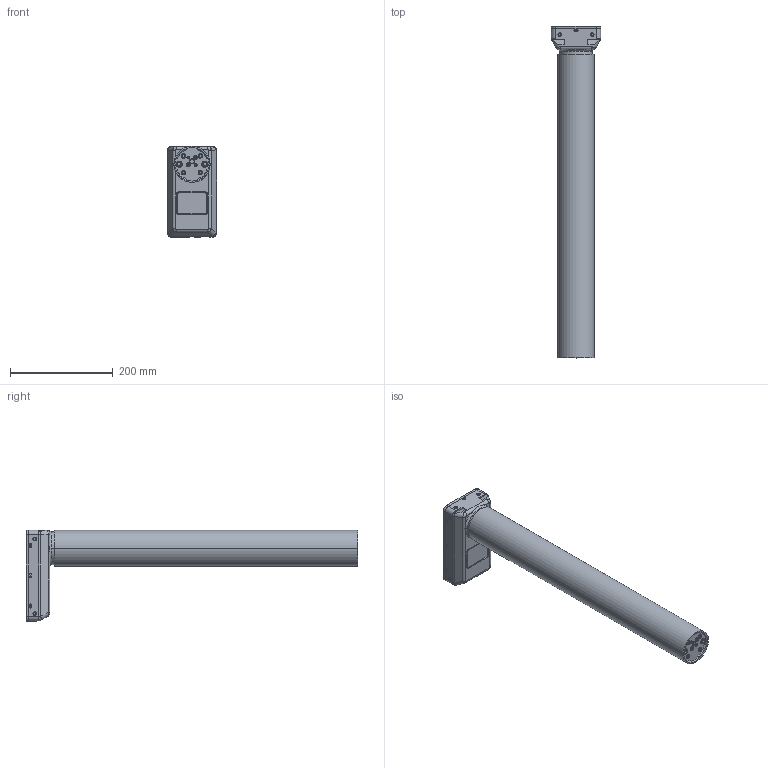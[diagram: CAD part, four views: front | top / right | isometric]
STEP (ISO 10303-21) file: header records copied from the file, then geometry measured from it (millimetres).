
FILE_DESCRIPTION((''),'2;1');
FILE_NAME('1040WTEST_ASM_1_ASM','2026-02-17T13:47:31',('jak'),(''),'CREO PARAMETRIC BY PTC INC, 2022024','CREO PARAMETRIC BY PTC INC, 2022024','');
FILE_SCHEMA(('AUTOMOTIVE_DESIGN { 1 0 10303 214 1 1 1 1 }'));
Length unit declared in the file: millimetre
Products named in the file (4): 1040W7901-03_STEP2_1; 1040W7901-01_STEP_1; FOLLOWER_1; 1040WTEST_ASM_1_ASM
Assembly tree (3 placements, depth 2):
  1040WTEST_ASM_1_ASM
    1040W7901-03_STEP2_1
    1040W7901-01_STEP_1
    FOLLOWER_1
Bounding box: 96.5 x 645 x 178.6 mm (x, y, z)
Volume: 4822511.4 mm3; surface area: 322644.9 mm2
Topology: 3 solids, 9 shells, 943 faces, 2657 edges, 1760 vertices
Faces by surface type: plane 392, cylinder 375, torus 96, bspline 52, cone 14, sphere 14
Entity records: 38886 total; most frequent: CARTESIAN_POINT 12498, ORIENTED_EDGE 5286, DIRECTION 5207, EDGE_CURVE 2643, AXIS2_PLACEMENT_3D 1963, VERTEX_POINT 1760, VECTOR 1281, LINE 1281
